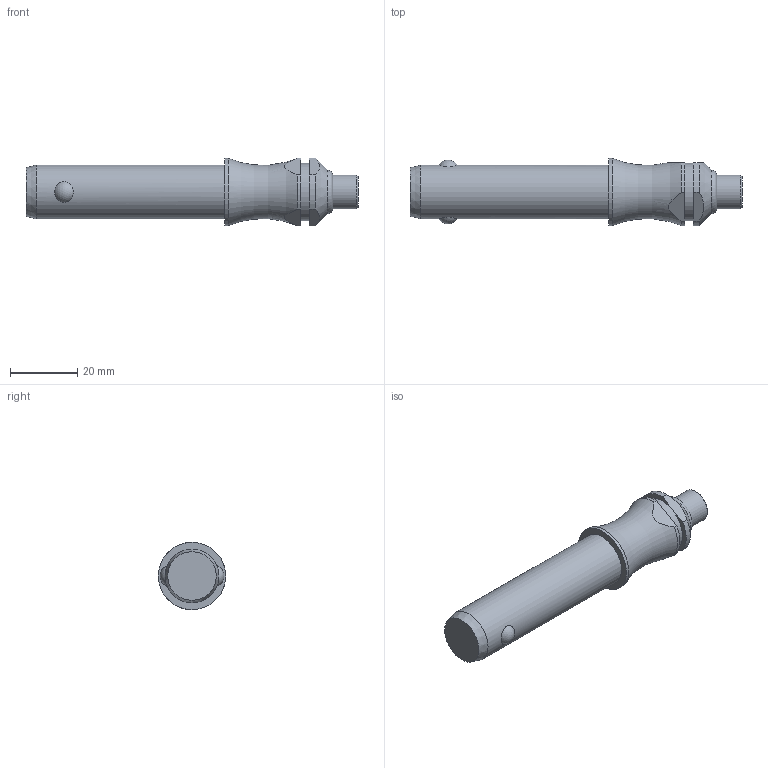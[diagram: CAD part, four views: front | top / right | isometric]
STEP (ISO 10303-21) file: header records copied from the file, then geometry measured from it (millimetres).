
FILE_DESCRIPTION( ( 'STEP AP203' ), '1' );
FILE_NAME( 'C:/Temp/Ganter_Step_05_03_2020/data/3_1/gn113_3/Stainless Steel-Ball lock pin GN 113.3-16-45 (deactivated).stp', '2020-03-12T08:18:53', ( 'License CC BY-ND 4.0' ), ( 'CADENAS' ), ' ', 'PARTsolutions', ' ' );
FILE_SCHEMA( ( 'CONFIG_CONTROL_DESIGN' ) );
Length unit declared in the file: millimetre
Products named in the file (1): _Stainless Steel-Ball lock pin GN 113.3-16-45 (deactivated)
Bounding box: 98.5 x 20 x 20 mm (x, y, z)
Volume: 19811.9 mm3; surface area: 5525.7 mm2
Topology: 1 solids, 1 shells, 28 faces, 60 edges, 39 vertices
Faces by surface type: plane 11, cylinder 10, cone 3, torus 2, sphere 2
Full cylindrical faces by diameter (mm): 10 x1, 16 x1, 17 x1, 20 x1
Entity records: 966 total; most frequent: CARTESIAN_POINT 350, DIRECTION 122, ORIENTED_EDGE 98, AXIS2_PLACEMENT_3D 52, EDGE_CURVE 49, EDGE_LOOP 42, VERTEX_POINT 38, FACE_OUTER_BOUND 34
